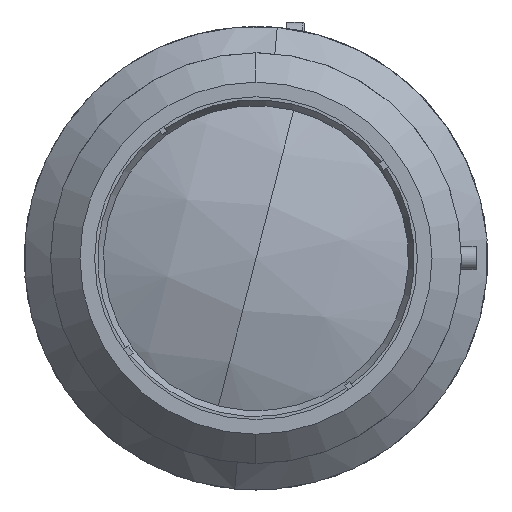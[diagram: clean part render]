
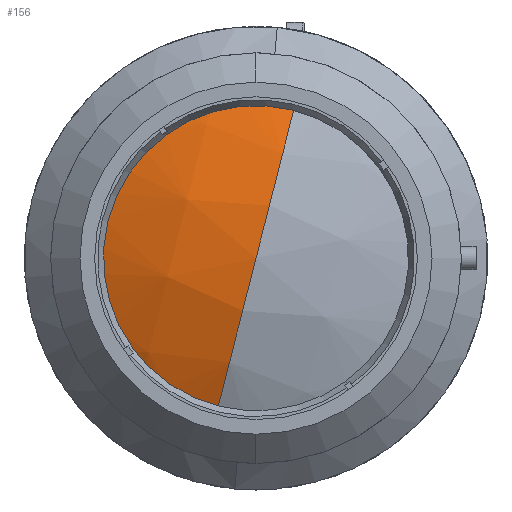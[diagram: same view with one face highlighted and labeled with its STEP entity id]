
A CAD part, left-side view. The second image highlights one B-rep face of the part: STEP entity #156.
In plain terms, the highlighted spherical face has radius 65.508 mm.
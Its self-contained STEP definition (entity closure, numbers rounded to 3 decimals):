
#156 = ADVANCED_FACE ( 'NONE', ( #16745 ), #12538, .T. ) ;
#3575 = DIRECTION ( 'NONE',  ( -1., 0., 0. ) ) ;
#4197 = CIRCLE ( 'NONE', #13018, 27. ) ;
#4900 = CARTESIAN_POINT ( 'NONE',  ( 66.546, 0., 0. ) ) ;
#5359 = VERTEX_POINT ( 'NONE', #13649 ) ;
#6241 = VERTEX_POINT ( 'NONE', #10318 ) ;
#6461 = DIRECTION ( 'NONE',  ( 0., 0.969, 0.247 ) ) ;
#7702 = CARTESIAN_POINT ( 'NONE',  ( 1.038, 0., 0. ) ) ;
#8701 = CIRCLE ( 'NONE', #19864, 65.508 ) ;
#10318 = CARTESIAN_POINT ( 'NONE',  ( 6.861, 6.66, -26.166 ) ) ;
#10376 = DIRECTION ( 'NONE',  ( 0., -0.969, -0.247 ) ) ;
#10553 = DIRECTION ( 'NONE',  ( 0., -0.247, 0.969 ) ) ;
#11201 = DIRECTION ( 'NONE',  ( 0., 0.969, 0.247 ) ) ;
#11480 = VERTEX_POINT ( 'NONE', #7702 ) ;
#12248 = EDGE_CURVE ( 'NONE', #6241, #11480, #8701, .T. ) ;
#12538 = SPHERICAL_SURFACE ( 'NONE', #14899, 65.508 ) ;
#13018 = AXIS2_PLACEMENT_3D ( 'NONE', #14356, #3575, #16160 ) ;
#13649 = CARTESIAN_POINT ( 'NONE',  ( 6.861, -6.66, 26.166 ) ) ;
#14132 = EDGE_CURVE ( 'NONE', #5359, #6241, #4197, .T. ) ;
#14171 = ORIENTED_EDGE ( 'NONE', *, *, #12248, .T. ) ;
#14181 = AXIS2_PLACEMENT_3D ( 'NONE', #21145, #10376, #22929 ) ;
#14356 = CARTESIAN_POINT ( 'NONE',  ( 6.861, 0., 0. ) ) ;
#14567 = ORIENTED_EDGE ( 'NONE', *, *, #15130, .F. ) ;
#14899 = AXIS2_PLACEMENT_3D ( 'NONE', #4900, #11201, #10553 ) ;
#15130 = EDGE_CURVE ( 'NONE', #5359, #11480, #22312, .T. ) ;
#16160 = DIRECTION ( 'NONE',  ( 0., 0.969, 0.247 ) ) ;
#16745 = FACE_OUTER_BOUND ( 'NONE', #19234, .T. ) ;
#17251 = CARTESIAN_POINT ( 'NONE',  ( 66.546, 0., 0. ) ) ;
#19039 = DIRECTION ( 'NONE',  ( 0., -0.247, 0.969 ) ) ;
#19234 = EDGE_LOOP ( 'NONE', ( #19685, #14171, #14567 ) ) ;
#19685 = ORIENTED_EDGE ( 'NONE', *, *, #14132, .T. ) ;
#19864 = AXIS2_PLACEMENT_3D ( 'NONE', #17251, #6461, #19039 ) ;
#21145 = CARTESIAN_POINT ( 'NONE',  ( 66.546, 0., 0. ) ) ;
#22312 = CIRCLE ( 'NONE', #14181, 65.508 ) ;
#22929 = DIRECTION ( 'NONE',  ( 0., 0.247, -0.969 ) ) ;
